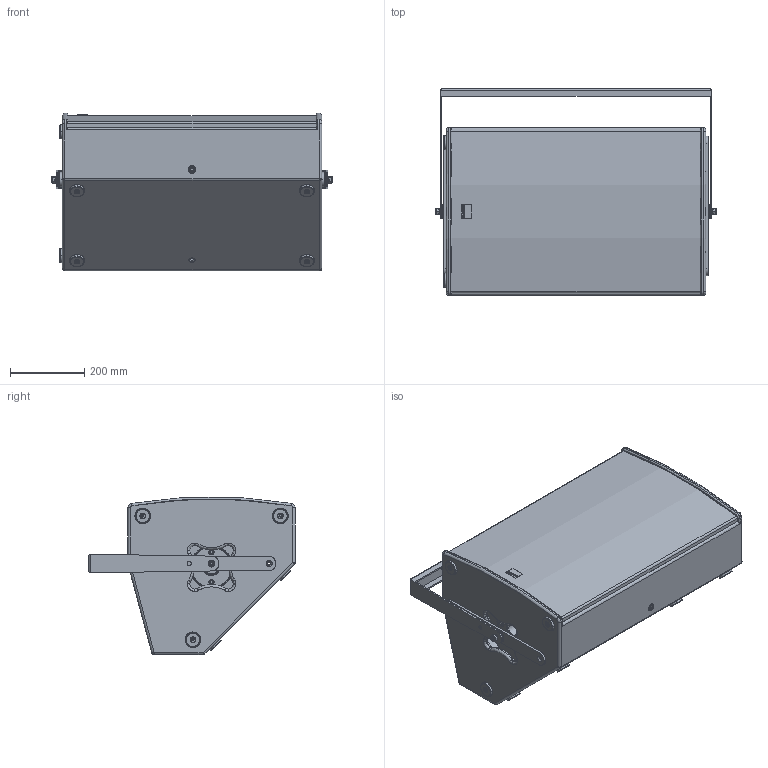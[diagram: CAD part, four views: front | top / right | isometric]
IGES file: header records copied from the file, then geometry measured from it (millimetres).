
Start section: SolidWorks IGES file using analytic representation for surfaces
Global section: file name: C:\Dokumente und Einstellungen\PC_Fabian\Desktop\3d_Dateien_Homepage\A-Serie\SEEBURG_A8_Bracket-hor.IGS; native system: SolidWorks 2009; preprocessor: SolidWorks 2009; author: PC_Fabian; date: 120928.101527; units: millimetre
Bounding box: 755.47 x 555 x 422.97 mm (x, y, z)
Surface area: 3669476.5 mm2 (no closed solid volume)
Topology: 0 solids, 0 shells, 971 faces, 14096 edges, 14086 vertices
Faces by surface type: revolution 502, bspline 469
